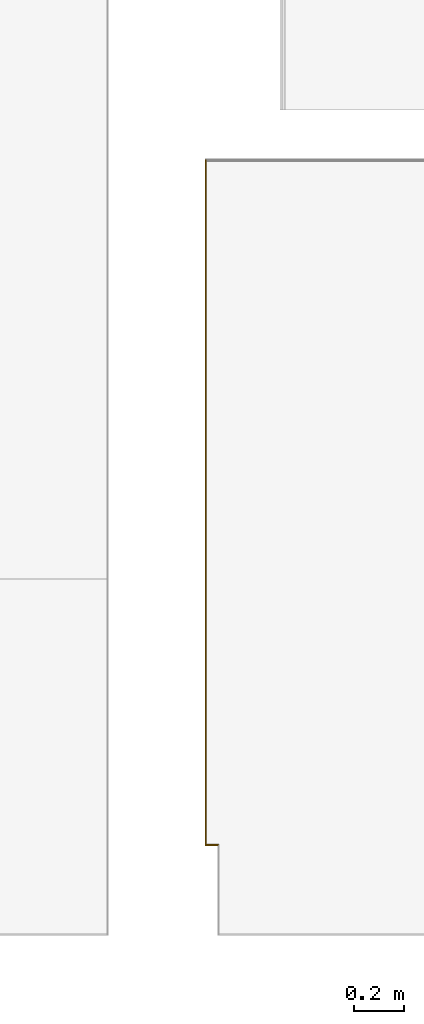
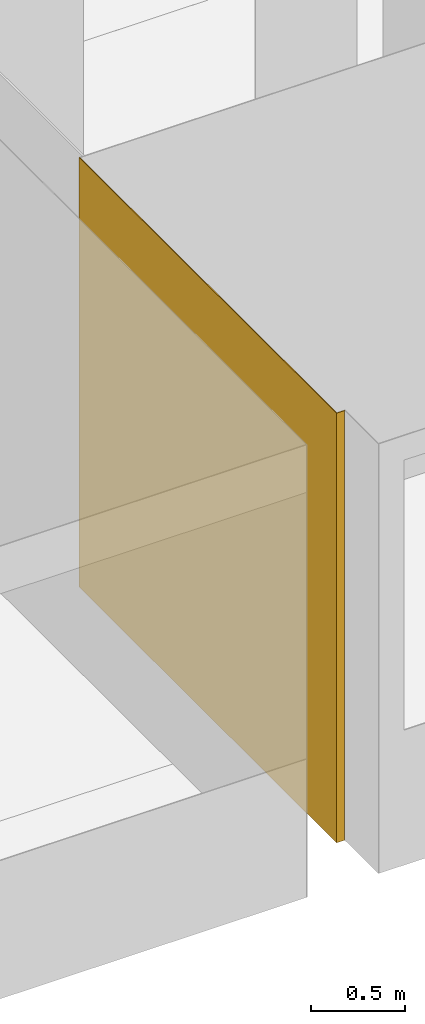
# One storey, part 11 of 16: 2 coverings.
"""IFC2X3 building model written with IfcOpenShell, lengths in millimetres."""

from ifc_helpers import new_model, entity, si_unit, converted_unit, derived_unit, money_unit, direction, frame, origin_with_axes, place, context, subcontext, project, spatial, polyline, outline, extrude, material, type_object, element, save


model = new_model("IFC2X3")

# Units and contexts
model_context = context("Model", 3, precision=0.01, world=origin_with_axes(), true_north=direction((0.0, 1.0)))
body_context = subcontext(model_context, "Body", "Model", "MODEL_VIEW")
ifc_project = project(units=[si_unit("LENGTHUNIT", "METRE", prefix="MILLI"), si_unit("AREAUNIT", "SQUARE_METRE"), si_unit("VOLUMEUNIT", "CUBIC_METRE"), converted_unit("PLANEANGLEUNIT", "DEGREE", entity("IfcPlaneAngleMeasure", 0.0174532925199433), si_unit("PLANEANGLEUNIT", "RADIAN"), dimensions=[0, 0, 0, 0, 0, 0, 0]), money_unit("EUR"), converted_unit("TIMEUNIT", "Year", entity("IfcTimeMeasure", 31556926.0), si_unit("TIMEUNIT", "SECOND"), dimensions=[0, 0, 1, 0, 0, 0, 0]), si_unit("MASSUNIT", "GRAM", prefix="KILO"), si_unit("THERMODYNAMICTEMPERATUREUNIT", "DEGREE_CELSIUS"), si_unit("LUMINOUSINTENSITYUNIT", "LUMEN"), si_unit("ENERGYUNIT", "JOULE", prefix="MEGA"), derived_unit("THERMALCONDUCTANCEUNIT", [(si_unit("POWERUNIT", "WATT"), 1), (si_unit("LENGTHUNIT", "METRE"), -1), (si_unit("THERMODYNAMICTEMPERATUREUNIT", "KELVIN"), -1)]), derived_unit("SPECIFICHEATCAPACITYUNIT", [(si_unit("ENERGYUNIT", "JOULE"), 1), (si_unit("MASSUNIT", "GRAM", prefix="KILO"), -1), (si_unit("THERMODYNAMICTEMPERATUREUNIT", "KELVIN"), -1)]), derived_unit("MASSDENSITYUNIT", [(si_unit("MASSUNIT", "GRAM", prefix="KILO"), 1), (si_unit("VOLUMEUNIT", "CUBIC_METRE"), -1)])], contexts=[model_context])

# Site, building, storey
site_placement = place(None, origin_with_axes())
site = spatial("IfcSite", under=ifc_project, at=site_placement, Name="Paldiski mnt 245/1, Tallinn, Harjumaa", CompositionType="COMPLEX")
building_placement = place(site_placement, origin_with_axes())
building = spatial("IfcBuilding", under=site, at=building_placement, Name="RKAS Hoone üldnimetus (kasutust iseloomustav) -> IFC Project Manager -> SOLIBRI", CompositionType="ELEMENT")
storey_placement = place(building_placement, frame((0.0, 0.0, 3300.0), z_axis=(0.0, 0.0, 1.0), x_axis=(1.0, 0.0, 0.0)))
storey = spatial("IfcBuildingStorey", under=building, at=storey_placement, Name="Teine korrus", CompositionType="ELEMENT", Elevation=3300.0)

# Coverings
ifc_material = material(Name="SA- Värv SM5(valge)")
covering_type = type_object("IfcCoveringType", Name="SA- Värv SM5(valge) 5", PredefinedType="CLADDING")
covering_1_placement = place(storey_placement, frame((-23360.00003928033, -12150.08423157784, 0.0), z_axis=(0.0, 0.0, 1.0), x_axis=(0.9999999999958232, 2.890294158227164e-06, 0.0)))
element("IfcCovering", 1, at=covering_1_placement, inside=storey, type_object=covering_type, material=ifc_material, Name="SM5", PredefinedType="CLADDING", context=body_context, shape_type="SweptSolid", body=[
    extrude(outline(polyline([(0.0, 0.0), (50.00003928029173, 0.0), (55.00005373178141, 5.000000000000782), (5.000014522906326, 4.999999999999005), (0.0, 0.0)])), origin_with_axes(), (0.0, 0.0, 1.0), 2800.0),
])
covering_2_placement = place(storey_placement, frame((-23359.99999714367, -9199.8237406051, 0.0), z_axis=(0.0, 0.0, 1.0), x_axis=(-1.428235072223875e-08, -0.9999999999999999, 0.0)))
element("IfcCovering", 2, at=covering_2_placement, inside=storey, type_object=covering_type, material=ifc_material, Name="SM5", PredefinedType="CLADDING", context=body_context, shape_type="SweptSolid", body=[
    extrude(outline(polyline([(199.9999999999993, 0.0), (2950.26049097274, 0.0), (2945.260476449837, 5.000000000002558), (199.999999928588, 4.999999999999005), (199.9999999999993, 0.0)])), origin_with_axes(), (0.0, 0.0, 1.0), 2800.0),
])

save(model, "model.ifc")
